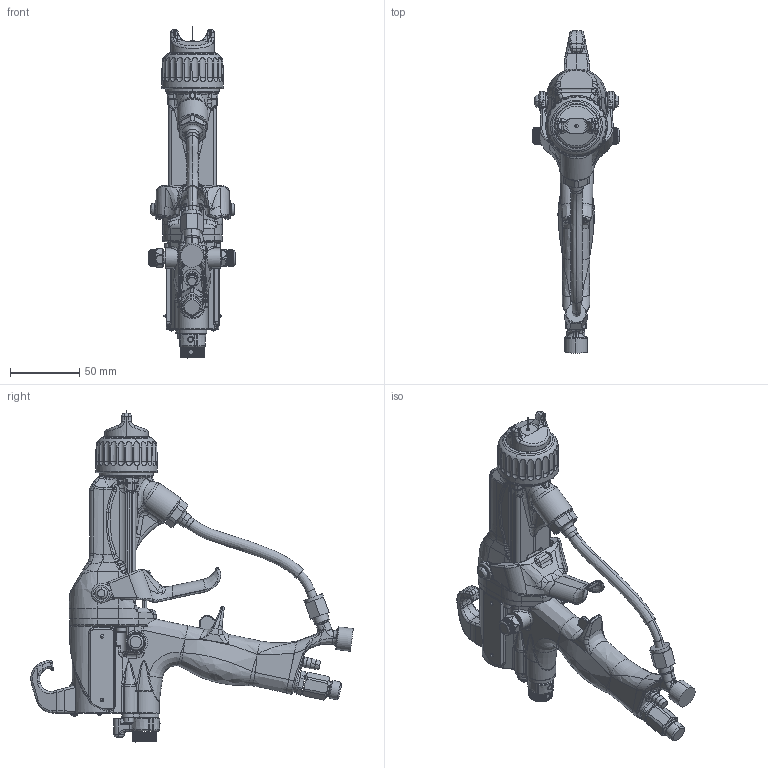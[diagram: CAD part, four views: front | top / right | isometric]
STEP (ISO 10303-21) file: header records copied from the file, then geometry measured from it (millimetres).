
FILE_DESCRIPTION((''),'2;1');
FILE_NAME('L60T72-EN-C','2020-05-20T08:15:24',('qusrh3'),(''),'CREO PARAMETRIC BY PTC INC, 2019030','CREO PARAMETRIC BY PTC INC, 2019030','');
FILE_SCHEMA(('CONFIG_CONTROL_DESIGN'));
Products named in the file (1): L60T72-EN-C
Bounding box: 62.61 x 233.22 x 240.16 mm (x, y, z)
Surface area: 91802.4 mm2 (no closed solid volume)
Topology: 0 solids, 65 shells, 2662 faces, 7347 edges, 4605 vertices
Faces by surface type: bspline 875, cylinder 666, plane 569, torus 255, cone 238, sphere 55, extrusion 4
Entity records: 129574 total; most frequent: CARTESIAN_POINT 71131, ORIENTED_EDGE 13351, DIRECTION 9976, EDGE_CURVE 7340, VERTEX_POINT 4605, AXIS2_PLACEMENT_3D 4038, B_SPLINE_CURVE_WITH_KNOTS 3193, EDGE_LOOP 2662
